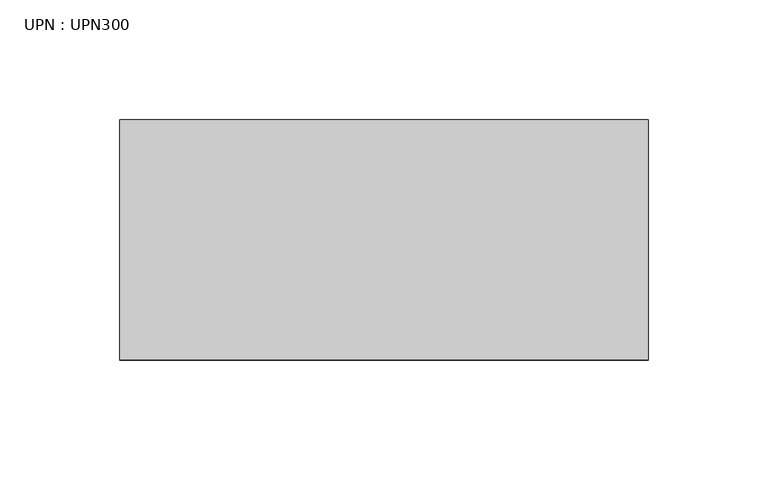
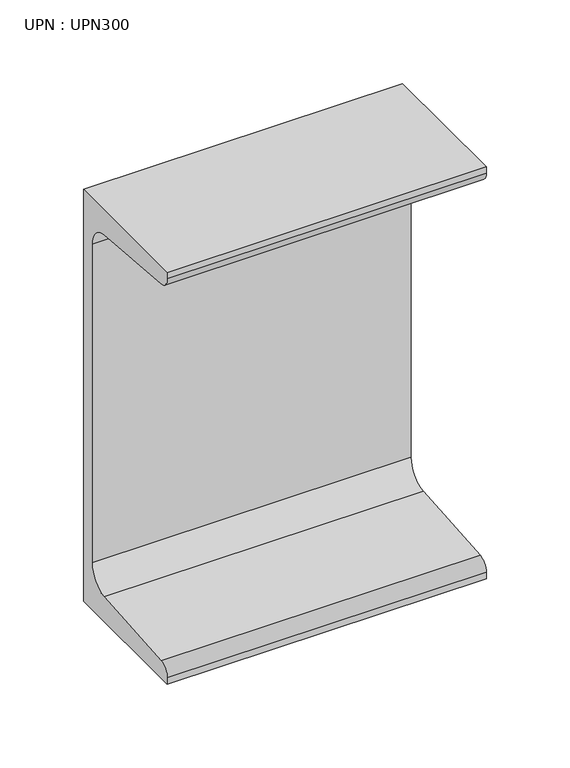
"""IFC4 building model written with IfcOpenShell, lengths in millimetres: beam geometry, UPN : UPN300."""

import ifcopenshell
import ifcopenshell.guid

model = None  # the IFC model being written
_history = None  # IfcOwnerHistory: only IFC2X3 demands one
_inside = {}  # id of a spatial element -> (the spatial element, [elements in it])
_under = {}  # id of a project, library or spatial element -> (it, [spatial elements below it])
_declared = {}  # id of a project -> (the project, [libraries it declares])
_typed = {}  # id of a type object -> (the type object, [elements of that type])
_made_of = {}  # id of a material, layer set ... -> (it, [elements and type objects made of it])


def new_model(schema):
    """Start an empty IFC model of exactly this schema.

    Asked for "IFC4X3", IfcOpenShell would pick the latest addendum, in which some entities
    have other attributes; the version numbers below select the first issue.
    IFC2X3 requires an IfcOwnerHistory on every rooted entity: one is made here for all.
    """
    global model, _history
    if schema == "IFC4X3":
        model = ifcopenshell.file(schema_version=(4, 3, 0, 0))
    else:
        model = ifcopenshell.file(schema=schema)
    _inside.clear()
    _under.clear()
    _declared.clear()
    _typed.clear()
    _made_of.clear()
    _history = None
    if model.schema == "IFC2X3":
        org = make("IfcOrganization", Name="unknown")
        user = make(
            "IfcPersonAndOrganization",
            ThePerson=make("IfcPerson", FamilyName="unknown"),
            TheOrganization=org,
        )
        app = make(
            "IfcApplication",
            ApplicationDeveloper=org,
            Version="unknown",
            ApplicationFullName="unknown",
            ApplicationIdentifier="unknown",
        )
        _history = make(
            "IfcOwnerHistory",
            OwningUser=user,
            OwningApplication=app,
            ChangeAction="ADDED",
            CreationDate=0,
        )
    return model


def make(cls, **values):
    """One entity of the class cls with the attributes given. An attribute that is None is left unset."""
    return model.create_entity(
        cls, **{name: value for name, value in values.items() if value is not None}
    )


def rooted(cls, **values):
    """An entity with a GlobalId (a new one), such as an element, a storey or a relation."""
    return make(cls, GlobalId=ifcopenshell.guid.new(), OwnerHistory=_history, **values)


def si_unit(unit_type, name, prefix=None):
    """IfcSIUnit, for example si_unit("LENGTHUNIT", "METRE", prefix="MILLI")."""
    return make("IfcSIUnit", UnitType=unit_type, Prefix=prefix, Name=name)


def assignment(units):
    """IfcUnitAssignment: the units of a project."""
    return None if units is None else make("IfcUnitAssignment", Units=units)


def point(xyz):
    """IfcCartesianPoint."""
    return None if xyz is None else make("IfcCartesianPoint", Coordinates=xyz)


def direction(xyz):
    """IfcDirection."""
    return None if xyz is None else make("IfcDirection", DirectionRatios=xyz)


def frame(location, z_axis=None, x_axis=None):
    """IfcAxis2Placement3D, a coordinate frame: its origin and axes. An axis left out is left unset."""
    return make(
        "IfcAxis2Placement3D",
        Location=point(location),
        Axis=direction(z_axis),
        RefDirection=direction(x_axis),
    )


def frame_2d(location, x_axis=None):
    """IfcAxis2Placement2D, a coordinate frame in the plane: its origin and x axis."""
    return make(
        "IfcAxis2Placement2D", Location=point(location), RefDirection=direction(x_axis)
    )


def origin():
    """The frame at (0, 0, 0) with its axes left unset."""
    return frame((0.0, 0.0, 0.0))


def place(relative_to, where):
    """IfcLocalPlacement: puts the frame where relative to a parent placement (None: the world)."""
    return make(
        "IfcLocalPlacement", PlacementRelTo=relative_to, RelativePlacement=where
    )


def context(
    kind, dimensions, precision=None, world=None, true_north=None, identifier=None
):
    """IfcGeometricRepresentationContext, for example the 3D "Model" context."""
    return make(
        "IfcGeometricRepresentationContext",
        ContextIdentifier=identifier,
        ContextType=kind,
        CoordinateSpaceDimension=dimensions,
        Precision=precision,
        WorldCoordinateSystem=world,
        TrueNorth=true_north,
    )


def project(units=None, contexts=None):
    """IfcProject with its units and contexts."""
    return rooted(
        "IfcProject",
        Name="project",
        RepresentationContexts=contexts,
        UnitsInContext=assignment(units),
    )


def spatial(cls, under=None, at=None, **own):
    """A site, building, storey or space (cls), placed at a placement, below another one or the project."""
    s = rooted(cls, ObjectPlacement=at, **own)
    if under is not None:
        _under.setdefault(under.id(), (under, []))[1].append(s)
    return s


def polyline(points):
    """IfcPolyline through the points."""
    return make("IfcPolyline", Points=[point(p) for p in points])


def circle_curve(where, radius):
    """IfcCircle in the frame where."""
    return make("IfcCircle", Position=where, Radius=radius)


def trimmed(basis, trim1, trim2, sense, master):
    """IfcTrimmedCurve: the piece of a basis curve between two trims."""
    return make(
        "IfcTrimmedCurve",
        BasisCurve=basis,
        Trim1=trim1,
        Trim2=trim2,
        SenseAgreement=sense,
        MasterRepresentation=master,
    )


def segment(curve, same_sense, transition):
    """IfcCompositeCurveSegment."""
    return make(
        "IfcCompositeCurveSegment",
        Transition=transition,
        SameSense=same_sense,
        ParentCurve=curve,
    )


def composite_curve(segments, self_intersect=None):
    """IfcCompositeCurve: segments joined end to end."""
    return make("IfcCompositeCurve", Segments=segments, SelfIntersect=self_intersect)


def outline(outer, holes=None, kind="AREA"):
    """IfcArbitraryClosedProfileDef: a profile drawn as a closed curve; with holes, ...WithVoids."""
    if holes is None:
        return make("IfcArbitraryClosedProfileDef", ProfileType=kind, OuterCurve=outer)
    return make(
        "IfcArbitraryProfileDefWithVoids",
        ProfileType=kind,
        OuterCurve=outer,
        InnerCurves=holes,
    )


def extrude(swept, where, along, depth):
    """IfcExtrudedAreaSolid: the profile swept, set in the frame where, extruded along a direction by depth."""
    return make(
        "IfcExtrudedAreaSolid",
        SweptArea=swept,
        Position=where,
        ExtrudedDirection=direction(along),
        Depth=depth,
    )


def shape(context_of_items, identifier, shape_type, items):
    """IfcShapeRepresentation: the items that make up one representation, for example the "Body"."""
    return make(
        "IfcShapeRepresentation",
        ContextOfItems=context_of_items,
        RepresentationIdentifier=identifier,
        RepresentationType=shape_type,
        Items=items,
    )


def source(mapping_origin, context_of_items, identifier, shape_type, items):
    """IfcRepresentationMap: a shape defined once, which mapped items show again and again."""
    return make(
        "IfcRepresentationMap",
        MappingOrigin=mapping_origin,
        MappedRepresentation=shape(context_of_items, identifier, shape_type, items),
    )


def transform(
    local_origin,
    x_axis=None,
    y_axis=None,
    z_axis=None,
    scale=None,
    scale2=None,
    scale3=None,
    uniform=True,
):
    """IfcCartesianTransformationOperator3D, or its non-uniform kind. x_axis, y_axis, z_axis: its Axis1, 2, 3."""
    if uniform:
        return make(
            "IfcCartesianTransformationOperator3D",
            Axis1=direction(x_axis),
            Axis2=direction(y_axis),
            LocalOrigin=point(local_origin),
            Scale=scale,
            Axis3=direction(z_axis),
        )
    return make(
        "IfcCartesianTransformationOperator3DnonUniform",
        Axis1=direction(x_axis),
        Axis2=direction(y_axis),
        LocalOrigin=point(local_origin),
        Scale=scale,
        Axis3=direction(z_axis),
        Scale2=scale2,
        Scale3=scale3,
    )


def mapped(mapping_source, mapping_target):
    """IfcMappedItem: shows the shape of a source again, moved by a transform."""
    return make(
        "IfcMappedItem", MappingSource=mapping_source, MappingTarget=mapping_target
    )


def made_of(thing, what):
    """Note that an element or type object is made of a material, layer set ...; save() writes the relation."""
    if what is not None:
        _made_of.setdefault(what.id(), (what, []))[1].append(thing)
    return thing


def element(
    cls,
    number,
    at=None,
    inside=None,
    cuts=None,
    type_object=None,
    material=None,
    context=None,
    identifier="Body",
    shape_type=None,
    held_by="IfcProductDefinitionShape",
    body=None,
    shapes=None,
    **own,
):
    """One element of the class cls, such as IfcWall. Its Tag is "e" and its number.

    at: its placement. inside: the storey or other place that contains it. cuts: it is an
    opening in that element (IfcRelVoidsElement). A single representation is given by context,
    identifier, shape_type and body (its items); several are given by shapes. held_by: the class
    of the entity that holds the representations. save() writes the other relations.
    """
    e = rooted(cls, Tag="e%d" % number, ObjectPlacement=at, **own)
    if body is not None:
        shapes = [shape(context, identifier, shape_type, body)]
    if shapes is not None:
        e.Representation = make(held_by, Representations=shapes)
    if inside is not None:
        _inside.setdefault(inside.id(), (inside, []))[1].append(e)
    if cuts is not None:
        rooted(
            "IfcRelVoidsElement", RelatingBuildingElement=cuts, RelatedOpeningElement=e
        )
    if type_object is not None:
        _typed.setdefault(type_object.id(), (type_object, []))[1].append(e)
    return made_of(e, material)


def aggregate(whole, parts):
    """IfcRelAggregates: a whole, such as a stair, and the parts it consists of."""
    return rooted("IfcRelAggregates", RelatingObject=whole, RelatedObjects=parts)


def save(model, path):
    """Write the relations noted so far, then the file.

    IfcRelAggregates (storeys below a building ...), IfcRelContainedInSpatialStructure (elements
    in a storey), IfcRelDefinesByType, IfcRelAssociatesMaterial and IfcRelDeclares: one each for
    every whole, place, type object, material and project.
    """
    for whole, parts in _under.values():
        aggregate(whole, parts)
    for where, things in _inside.values():
        rooted(
            "IfcRelContainedInSpatialStructure",
            RelatedElements=things,
            RelatingStructure=where,
        )
    for kind, things in _typed.values():
        rooted("IfcRelDefinesByType", RelatedObjects=things, RelatingType=kind)
    for what, things in _made_of.values():
        rooted("IfcRelAssociatesMaterial", RelatedObjects=things, RelatingMaterial=what)
    for by, libraries in _declared.values():
        rooted("IfcRelDeclares", RelatingContext=by, RelatedDefinitions=libraries)
    model.write(path)


def upn_upn300_c73c007a(model_context):
    return source(origin(), model_context, "Body", "SweptSolid", [
        extrude(outline(composite_curve([segment(polyline([(27.0, 150.0), (27.0, -150.0), (-73.0, -150.0), (-73.0, -145.3826224)]), True, "CONTINUOUS"), segment(trimmed(circle_curve(frame_2d((-65.0, -145.3826224)), 8.0), [point((-73.0, -145.3826224))], [point((-65.637416, -137.4080566))], False, "CARTESIAN"), True, "CONTINUOUS"), segment(polyline([(-65.637416, -137.4080566), (2.274832, -131.9797543)]), True, "CONTINUOUS"), segment(trimmed(circle_curve(frame_2d((1.0, -116.0306225)), 16.0), [point((2.274832, -131.9797543))], [point((17.0, -116.0306225))], True, "CARTESIAN"), True, "CONTINUOUS"), segment(polyline([(17.0, -116.0306225), (17.0, 116.0306225)]), True, "CONTINUOUS"), segment(trimmed(circle_curve(frame_2d((1.0, 116.0306225)), 16.0), [point((17.0, 116.0306225))], [point((2.274832, 131.9797543))], True, "CARTESIAN"), True, "CONTINUOUS"), segment(polyline([(2.274832, 131.9797543), (-65.637416, 137.4080566)]), True, "CONTINUOUS"), segment(trimmed(circle_curve(frame_2d((-65.0, 145.3826224)), 8.0), [point((-65.637416, 137.4080566))], [point((-73.0, 145.3826224))], False, "CARTESIAN"), True, "CONTINUOUS"), segment(polyline([(-73.0, 145.3826224), (-73.0, 150.0), (27.0, 150.0)]), True, "CONTINUOUS")], self_intersect=False)), frame((-102.9, 0.0, 0.0), z_axis=(1.0, 0.0, 0.0), x_axis=(0.0, 1.0, 0.0)), (0.0, 0.0, 1.0), 220.1),
    ])


if __name__ == "__main__":
    model = new_model("IFC4")
    model_context = context("Model", 3, world=origin())
    ifc_project = project(units=[si_unit("LENGTHUNIT", "METRE", prefix="MILLI")], contexts=[model_context])
    site = spatial("IfcSite", under=ifc_project)
    building = spatial("IfcBuilding", under=site)
    placement = place(None, origin())
    upn_upn300_shape = upn_upn300_c73c007a(model_context)
    element("IfcBeam", 1, ObjectType="UPN : UPN300", at=placement, inside=building, context=model_context, shape_type="MappedRepresentation", body=[
        mapped(upn_upn300_shape, transform((0.0, 0.0, 0.0), x_axis=(1.0, 0.0, 0.0), y_axis=(0.0, 1.0, 0.0), z_axis=(0.0, 0.0, 1.0))),
    ])
    save(model, "model.ifc")
